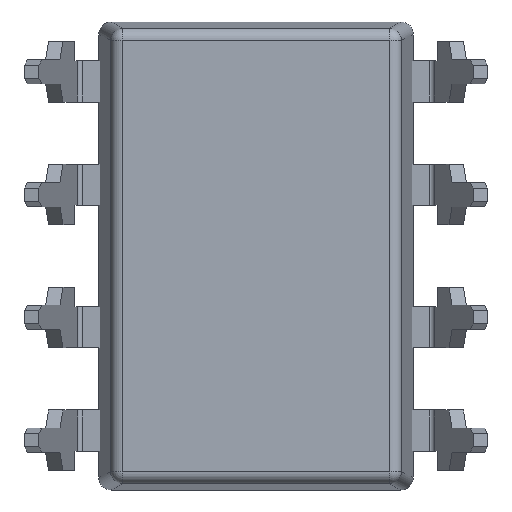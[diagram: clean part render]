
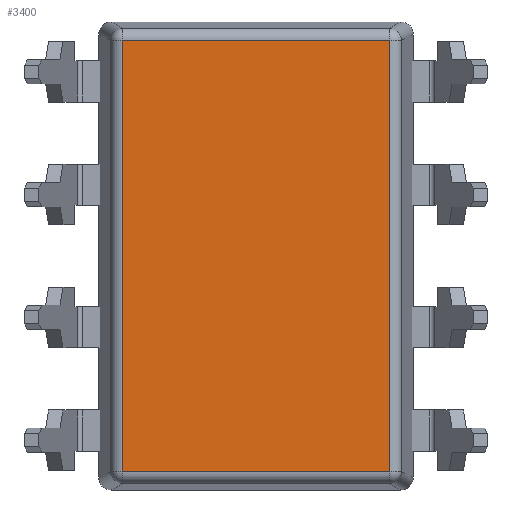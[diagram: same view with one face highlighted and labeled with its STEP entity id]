
A CAD part, front view. The second image highlights one B-rep face of the part: STEP entity #3400.
In plain terms, the highlighted planar face has unit normal (0, -1, 0).
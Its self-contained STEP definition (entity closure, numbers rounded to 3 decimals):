
#221=FACE_OUTER_BOUND('',#400,.T.);
#400=EDGE_LOOP('',(#2528,#2529,#2530,#2531));
#797=LINE('',#5249,#1224);
#798=LINE('',#5251,#1225);
#799=LINE('',#5253,#1226);
#800=LINE('',#5254,#1227);
#1224=VECTOR('',#4144,8.919);
#1225=VECTOR('',#4145,5.525);
#1226=VECTOR('',#4146,8.919);
#1227=VECTOR('',#4147,5.525);
#1619=VERTEX_POINT('',#5247);
#1620=VERTEX_POINT('',#5248);
#1621=VERTEX_POINT('',#5250);
#1622=VERTEX_POINT('',#5252);
#1985=EDGE_CURVE('',#1619,#1620,#797,.T.);
#1986=EDGE_CURVE('',#1620,#1621,#798,.T.);
#1987=EDGE_CURVE('',#1621,#1622,#799,.T.);
#1988=EDGE_CURVE('',#1622,#1619,#800,.T.);
#2528=ORIENTED_EDGE('',*,*,#1985,.T.);
#2529=ORIENTED_EDGE('',*,*,#1986,.T.);
#2530=ORIENTED_EDGE('',*,*,#1987,.T.);
#2531=ORIENTED_EDGE('',*,*,#1988,.T.);
#3268=PLANE('',#3589);
#3400=ADVANCED_FACE('',(#221),#3268,.T.);
#3589=AXIS2_PLACEMENT_3D('',#5246,#4142,#4143);
#4142=DIRECTION('center_axis',(0.,-1.,0.));
#4143=DIRECTION('ref_axis',(0.,0.,-1.));
#4144=DIRECTION('',(0.,0.,-1.));
#4145=DIRECTION('',(1.,0.,0.));
#4146=DIRECTION('',(0.,0.,1.));
#4147=DIRECTION('',(-1.,0.,0.));
#5246=CARTESIAN_POINT('Origin',(0.,-1.73,0.));
#5247=CARTESIAN_POINT('',(-2.762,-1.73,4.46));
#5248=CARTESIAN_POINT('',(-2.762,-1.73,-4.46));
#5249=CARTESIAN_POINT('',(-2.762,-1.73,0.));
#5250=CARTESIAN_POINT('',(2.762,-1.73,-4.46));
#5251=CARTESIAN_POINT('',(2.726,-1.73,-4.46));
#5252=CARTESIAN_POINT('',(2.762,-1.73,4.46));
#5253=CARTESIAN_POINT('',(2.762,-1.73,4.441));
#5254=CARTESIAN_POINT('',(-2.726,-1.73,4.46));
